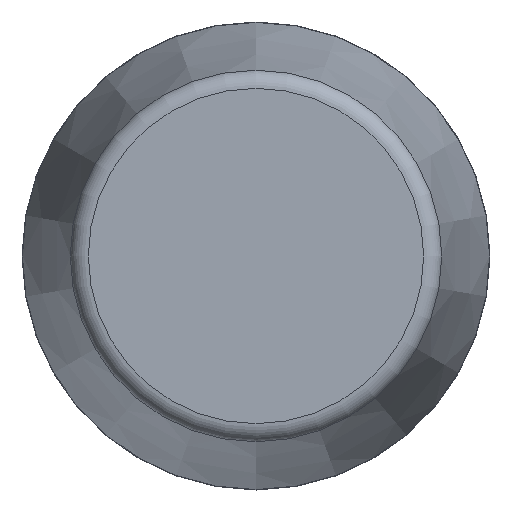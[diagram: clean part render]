
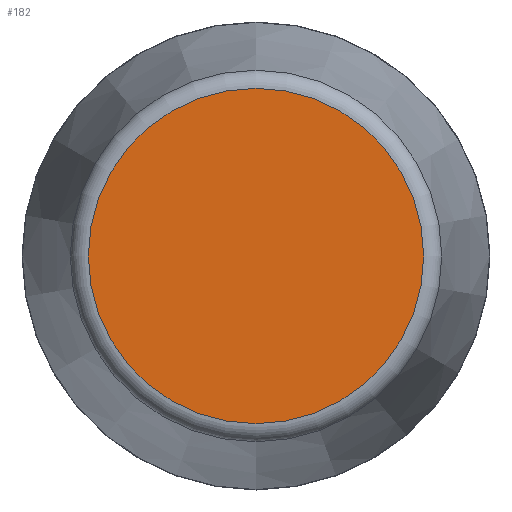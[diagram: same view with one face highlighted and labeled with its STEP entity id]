
A CAD part, front view. The second image highlights one B-rep face of the part: STEP entity #182.
In plain terms, the highlighted planar face has unit normal (0, -1, 0).
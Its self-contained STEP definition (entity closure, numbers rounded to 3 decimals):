
#182 = ADVANCED_FACE( '', ( #217 ), #218, .F. );
#217 = FACE_OUTER_BOUND( '', #292, .T. );
#218 = PLANE( '', #293 );
#292 = EDGE_LOOP( '', ( #368 ) );
#293 = AXIS2_PLACEMENT_3D( '', #369, #370, #371 );
#368 = ORIENTED_EDGE( '', *, *, #564, .T. );
#369 = CARTESIAN_POINT( '', ( 4.573, 0., 0. ) );
#370 = DIRECTION( '', ( 0., 1., 0. ) );
#371 = DIRECTION( '', ( 0., 0., 1. ) );
#564 = EDGE_CURVE( '', #619, #619, #620, .T. );
#619 = VERTEX_POINT( '', #707 );
#620 = CIRCLE( '', #708, 4.573 );
#707 = CARTESIAN_POINT( '', ( 0., 0., -4.573 ) );
#708 = AXIS2_PLACEMENT_3D( '', #906, #907, #908 );
#906 = CARTESIAN_POINT( '', ( 0., 0., 0. ) );
#907 = DIRECTION( '', ( 0., -1., 0. ) );
#908 = DIRECTION( '', ( 0., 0., -1. ) );
